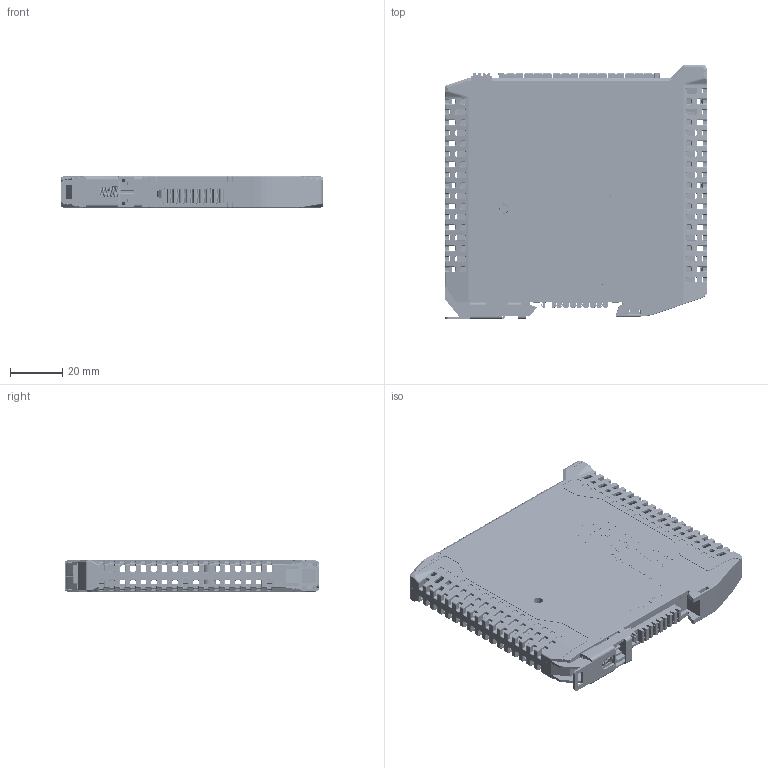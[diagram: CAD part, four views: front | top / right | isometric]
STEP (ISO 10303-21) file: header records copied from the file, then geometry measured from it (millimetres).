
FILE_DESCRIPTION((''),'2;1');
FILE_NAME('DAUDIN_GF2-DI02','2022-08-19T',('Rex.Song'),(''),'CREO PARAMETRIC BY PTC INC, 2015480','CREO PARAMETRIC BY PTC INC, 2015480','');
FILE_SCHEMA(('CONFIG_CONTROL_DESIGN'));
Products named in the file (1): DAUDIN_GF2-DI02
Bounding box: 100 x 97 x 12 mm (x, y, z)
Volume: 39199.9 mm3; surface area: 66052.9 mm2
Topology: 2 solids, 2 shells, 10721 faces, 28944 edges, 18108 vertices
Faces by surface type: plane 4493, cylinder 3433, extrusion 1150, bspline 858, torus 448, cone 178, sphere 158, revolution 3
Entity records: 473401 total; most frequent: CARTESIAN_POINT 205257, ORIENTED_EDGE 57560, DIRECTION 48940, EDGE_CURVE 28780, VECTOR 18493, VERTEX_POINT 18108, LINE 17343, AXIS2_PLACEMENT_3D 15222
